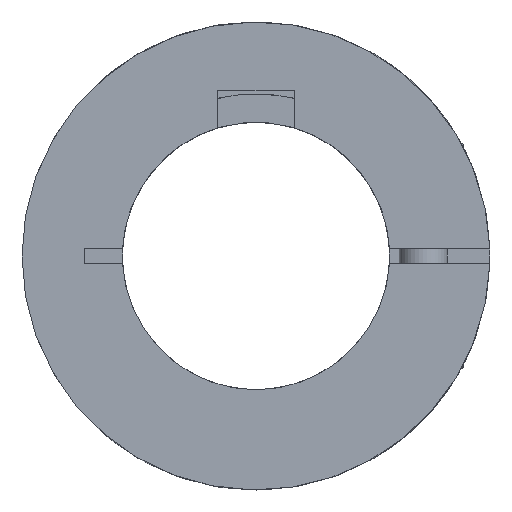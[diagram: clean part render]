
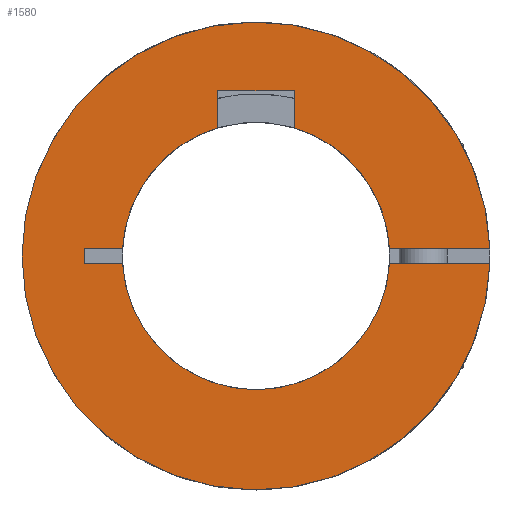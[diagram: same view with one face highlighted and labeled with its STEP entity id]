
A CAD part, left-side view. The second image highlights one B-rep face of the part: STEP entity #1580.
In plain terms, the highlighted planar face has unit normal (-1, 0, 0).
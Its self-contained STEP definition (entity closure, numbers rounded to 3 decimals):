
#65=PLANE('',#1791);
#143=LINE('',#2751,#258);
#146=LINE('',#2757,#261);
#147=LINE('',#2759,#262);
#162=LINE('',#2787,#277);
#165=LINE('',#2793,#280);
#218=LINE('',#2911,#333);
#219=LINE('',#2913,#334);
#221=LINE('',#2917,#336);
#258=VECTOR('',#2105,1.);
#261=VECTOR('',#2110,1.);
#262=VECTOR('',#2113,1.);
#277=VECTOR('',#2142,14.071);
#280=VECTOR('',#2149,14.071);
#333=VECTOR('',#2274,20.559);
#334=VECTOR('',#2277,20.559);
#336=VECTOR('',#2283,1.5);
#436=FACE_OUTER_BOUND('',#544,.T.);
#544=EDGE_LOOP('',(#1446,#1447,#1448,#1449,#1450,#1451,#1452,#1453,#1454,
#1455,#1456,#1457));
#624=CIRCLE('',#1691,24.5);
#653=CIRCLE('',#1734,14.);
#656=CIRCLE('',#1738,14.);
#658=CIRCLE('',#1740,14.);
#716=VERTEX_POINT('',#2445);
#717=VERTEX_POINT('',#2447);
#761=VERTEX_POINT('',#2720);
#762=VERTEX_POINT('',#2721);
#767=VERTEX_POINT('',#2732);
#768=VERTEX_POINT('',#2734);
#771=VERTEX_POINT('',#2740);
#772=VERTEX_POINT('',#2742);
#774=VERTEX_POINT('',#2749);
#776=VERTEX_POINT('',#2755);
#782=VERTEX_POINT('',#2785);
#783=VERTEX_POINT('',#2792);
#886=EDGE_CURVE('',#716,#717,#624,.T.);
#943=EDGE_CURVE('',#761,#762,#653,.T.);
#949=EDGE_CURVE('',#768,#767,#656,.T.);
#953=EDGE_CURVE('',#772,#771,#658,.T.);
#958=EDGE_CURVE('',#771,#774,#143,.T.);
#961=EDGE_CURVE('',#774,#776,#146,.T.);
#962=EDGE_CURVE('',#776,#768,#147,.T.);
#977=EDGE_CURVE('',#782,#762,#162,.T.);
#980=EDGE_CURVE('',#783,#772,#165,.T.);
#1033=EDGE_CURVE('',#767,#717,#218,.T.);
#1034=EDGE_CURVE('',#716,#761,#219,.T.);
#1036=EDGE_CURVE('',#783,#782,#221,.T.);
#1446=ORIENTED_EDGE('',*,*,#943,.T.);
#1447=ORIENTED_EDGE('',*,*,#977,.F.);
#1448=ORIENTED_EDGE('',*,*,#1036,.F.);
#1449=ORIENTED_EDGE('',*,*,#980,.T.);
#1450=ORIENTED_EDGE('',*,*,#953,.T.);
#1451=ORIENTED_EDGE('',*,*,#958,.T.);
#1452=ORIENTED_EDGE('',*,*,#961,.T.);
#1453=ORIENTED_EDGE('',*,*,#962,.T.);
#1454=ORIENTED_EDGE('',*,*,#949,.T.);
#1455=ORIENTED_EDGE('',*,*,#1033,.T.);
#1456=ORIENTED_EDGE('',*,*,#886,.F.);
#1457=ORIENTED_EDGE('',*,*,#1034,.T.);
#1580=ADVANCED_FACE('',(#436),#65,.T.);
#1691=AXIS2_PLACEMENT_3D('',#2448,#1974,#1975);
#1734=AXIS2_PLACEMENT_3D('',#2722,#2080,#2081);
#1738=AXIS2_PLACEMENT_3D('',#2735,#2091,#2092);
#1740=AXIS2_PLACEMENT_3D('',#2743,#2097,#2098);
#1791=AXIS2_PLACEMENT_3D('',#2916,#2281,#2282);
#1974=DIRECTION('center_axis',(1.,0.,0.));
#1975=DIRECTION('ref_axis',(0.,1.,0.));
#2080=DIRECTION('center_axis',(1.,0.,0.));
#2081=DIRECTION('ref_axis',(0.,0.,1.));
#2091=DIRECTION('center_axis',(1.,0.,0.));
#2092=DIRECTION('ref_axis',(0.,0.,1.));
#2097=DIRECTION('center_axis',(1.,0.,0.));
#2098=DIRECTION('ref_axis',(0.,0.,1.));
#2105=DIRECTION('',(0.,0.,1.));
#2110=DIRECTION('',(0.,-1.,0.));
#2113=DIRECTION('',(0.,0.,-1.));
#2142=DIRECTION('',(0.,-1.,0.));
#2149=DIRECTION('',(0.,-1.,0.));
#2274=DIRECTION('',(0.,-1.,0.));
#2277=DIRECTION('',(0.,1.,0.));
#2281=DIRECTION('center_axis',(-1.,0.,0.));
#2282=DIRECTION('ref_axis',(0.,-1.,0.));
#2283=DIRECTION('',(0.,0.,-1.));
#2445=CARTESIAN_POINT('',(0.,-24.489,-0.75));
#2447=CARTESIAN_POINT('',(0.,-24.489,0.75));
#2448=CARTESIAN_POINT('Origin',(0.,0.,0.));
#2720=CARTESIAN_POINT('',(0.,-13.98,-0.75));
#2721=CARTESIAN_POINT('',(0.,13.98,-0.75));
#2722=CARTESIAN_POINT('Origin',(0.,0.,0.));
#2732=CARTESIAN_POINT('',(0.,-13.98,0.75));
#2734=CARTESIAN_POINT('',(0.,-4.,13.416));
#2735=CARTESIAN_POINT('Origin',(0.,0.,0.));
#2740=CARTESIAN_POINT('',(0.,4.,13.416));
#2742=CARTESIAN_POINT('',(0.,13.98,0.75));
#2743=CARTESIAN_POINT('Origin',(0.,0.,0.));
#2749=CARTESIAN_POINT('',(0.,4.,17.3));
#2751=CARTESIAN_POINT('',(0.,4.,16.575));
#2755=CARTESIAN_POINT('',(0.,-4.,17.3));
#2757=CARTESIAN_POINT('',(0.,0.,17.3));
#2759=CARTESIAN_POINT('',(0.,-4.,16.575));
#2785=CARTESIAN_POINT('',(0.,18.,-0.75));
#2787=CARTESIAN_POINT('',(0.,18.,-0.75));
#2792=CARTESIAN_POINT('',(0.,18.,0.75));
#2793=CARTESIAN_POINT('',(0.,18.,0.75));
#2911=CARTESIAN_POINT('',(0.,-3.929,0.75));
#2913=CARTESIAN_POINT('',(0.,-24.489,-0.75));
#2916=CARTESIAN_POINT('Origin',(0.,0.,24.5));
#2917=CARTESIAN_POINT('',(0.,18.,0.75));
